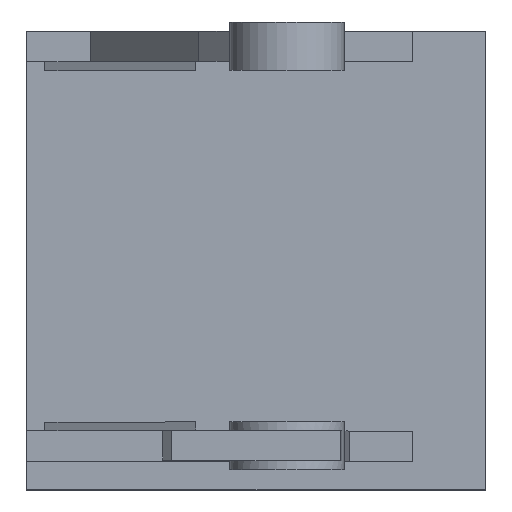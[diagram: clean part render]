
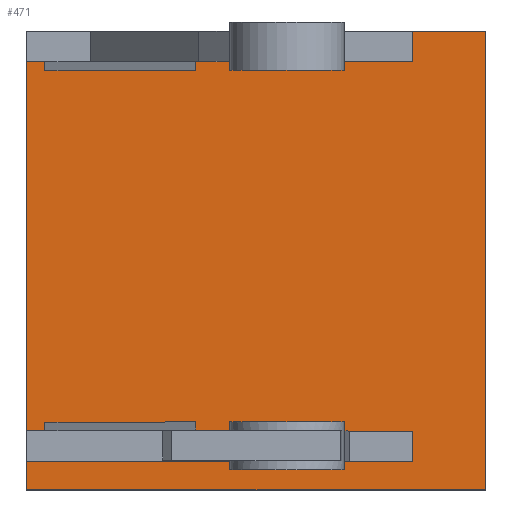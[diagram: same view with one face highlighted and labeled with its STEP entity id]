
A CAD part, top view. The second image highlights one B-rep face of the part: STEP entity #471.
In plain terms, the highlighted planar face has unit normal (0, 0, 1).
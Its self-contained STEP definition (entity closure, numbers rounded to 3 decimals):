
#446 = VERTEX_POINT('',#447);
#447 = CARTESIAN_POINT('',(-76.,-76.,83.));
#453 = EDGE_CURVE('',#446,#454,#456,.T.);
#454 = VERTEX_POINT('',#455);
#455 = CARTESIAN_POINT('',(76.,-76.,83.));
#456 = LINE('',#457,#458);
#457 = CARTESIAN_POINT('',(-76.,-76.,83.));
#458 = VECTOR('',#459,1.);
#459 = DIRECTION('',(1.,0.,-0.));
#471 = ADVANCED_FACE('',(#472),#609,.T.);
#472 = FACE_BOUND('',#473,.T.);
#473 = EDGE_LOOP('',(#474,#482,#483,#491,#499,#507,#515,#523,#531,#539,
    #547,#555,#563,#571,#579,#587,#595,#603));
#474 = ORIENTED_EDGE('',*,*,#475,.F.);
#475 = EDGE_CURVE('',#446,#476,#478,.T.);
#476 = VERTEX_POINT('',#477);
#477 = CARTESIAN_POINT('',(-76.,-66.5,83.));
#478 = LINE('',#479,#480);
#479 = CARTESIAN_POINT('',(-76.,-76.,83.));
#480 = VECTOR('',#481,1.);
#481 = DIRECTION('',(-0.,1.,0.));
#482 = ORIENTED_EDGE('',*,*,#453,.T.);
#483 = ORIENTED_EDGE('',*,*,#484,.T.);
#484 = EDGE_CURVE('',#454,#485,#487,.T.);
#485 = VERTEX_POINT('',#486);
#486 = CARTESIAN_POINT('',(76.,76.,83.));
#487 = LINE('',#488,#489);
#488 = CARTESIAN_POINT('',(76.,-76.,83.));
#489 = VECTOR('',#490,1.);
#490 = DIRECTION('',(-0.,1.,0.));
#491 = ORIENTED_EDGE('',*,*,#492,.F.);
#492 = EDGE_CURVE('',#493,#485,#495,.T.);
#493 = VERTEX_POINT('',#494);
#494 = CARTESIAN_POINT('',(52.,76.,83.));
#495 = LINE('',#496,#497);
#496 = CARTESIAN_POINT('',(-76.,76.,83.));
#497 = VECTOR('',#498,1.);
#498 = DIRECTION('',(1.,0.,-0.));
#499 = ORIENTED_EDGE('',*,*,#500,.F.);
#500 = EDGE_CURVE('',#501,#493,#503,.T.);
#501 = VERTEX_POINT('',#502);
#502 = CARTESIAN_POINT('',(52.,66.,83.));
#503 = LINE('',#504,#505);
#504 = CARTESIAN_POINT('',(52.,66.,83.));
#505 = VECTOR('',#506,1.);
#506 = DIRECTION('',(0.,1.,0.));
#507 = ORIENTED_EDGE('',*,*,#508,.F.);
#508 = EDGE_CURVE('',#509,#501,#511,.T.);
#509 = VERTEX_POINT('',#510);
#510 = CARTESIAN_POINT('',(-20.,66.,83.));
#511 = LINE('',#512,#513);
#512 = CARTESIAN_POINT('',(-76.,66.,83.));
#513 = VECTOR('',#514,1.);
#514 = DIRECTION('',(1.,0.,0.));
#515 = ORIENTED_EDGE('',*,*,#516,.F.);
#516 = EDGE_CURVE('',#517,#509,#519,.T.);
#517 = VERTEX_POINT('',#518);
#518 = CARTESIAN_POINT('',(-20.,63.,83.));
#519 = LINE('',#520,#521);
#520 = CARTESIAN_POINT('',(-20.,63.,83.));
#521 = VECTOR('',#522,1.);
#522 = DIRECTION('',(0.,1.,0.));
#523 = ORIENTED_EDGE('',*,*,#524,.F.);
#524 = EDGE_CURVE('',#525,#517,#527,.T.);
#525 = VERTEX_POINT('',#526);
#526 = CARTESIAN_POINT('',(-70.,63.,83.));
#527 = LINE('',#528,#529);
#528 = CARTESIAN_POINT('',(-70.,63.,83.));
#529 = VECTOR('',#530,1.);
#530 = DIRECTION('',(1.,0.,0.));
#531 = ORIENTED_EDGE('',*,*,#532,.T.);
#532 = EDGE_CURVE('',#525,#533,#535,.T.);
#533 = VERTEX_POINT('',#534);
#534 = CARTESIAN_POINT('',(-70.,66.,83.));
#535 = LINE('',#536,#537);
#536 = CARTESIAN_POINT('',(-70.,63.,83.));
#537 = VECTOR('',#538,1.);
#538 = DIRECTION('',(0.,1.,0.));
#539 = ORIENTED_EDGE('',*,*,#540,.F.);
#540 = EDGE_CURVE('',#541,#533,#543,.T.);
#541 = VERTEX_POINT('',#542);
#542 = CARTESIAN_POINT('',(-76.,66.,83.));
#543 = LINE('',#544,#545);
#544 = CARTESIAN_POINT('',(-76.,66.,83.));
#545 = VECTOR('',#546,1.);
#546 = DIRECTION('',(1.,0.,0.));
#547 = ORIENTED_EDGE('',*,*,#548,.F.);
#548 = EDGE_CURVE('',#549,#541,#551,.T.);
#549 = VERTEX_POINT('',#550);
#550 = CARTESIAN_POINT('',(-76.,-56.5,83.));
#551 = LINE('',#552,#553);
#552 = CARTESIAN_POINT('',(-76.,-76.,83.));
#553 = VECTOR('',#554,1.);
#554 = DIRECTION('',(-0.,1.,0.));
#555 = ORIENTED_EDGE('',*,*,#556,.T.);
#556 = EDGE_CURVE('',#549,#557,#559,.T.);
#557 = VERTEX_POINT('',#558);
#558 = CARTESIAN_POINT('',(-70.,-56.5,83.));
#559 = LINE('',#560,#561);
#560 = CARTESIAN_POINT('',(-76.,-56.5,83.));
#561 = VECTOR('',#562,1.);
#562 = DIRECTION('',(1.,0.,0.));
#563 = ORIENTED_EDGE('',*,*,#564,.T.);
#564 = EDGE_CURVE('',#557,#565,#567,.T.);
#565 = VERTEX_POINT('',#566);
#566 = CARTESIAN_POINT('',(-70.,-53.5,83.));
#567 = LINE('',#568,#569);
#568 = CARTESIAN_POINT('',(-70.,-61.5,83.));
#569 = VECTOR('',#570,1.);
#570 = DIRECTION('',(0.,1.,0.));
#571 = ORIENTED_EDGE('',*,*,#572,.T.);
#572 = EDGE_CURVE('',#565,#573,#575,.T.);
#573 = VERTEX_POINT('',#574);
#574 = CARTESIAN_POINT('',(-20.,-53.5,83.));
#575 = LINE('',#576,#577);
#576 = CARTESIAN_POINT('',(-70.,-53.5,83.));
#577 = VECTOR('',#578,1.);
#578 = DIRECTION('',(1.,0.,0.));
#579 = ORIENTED_EDGE('',*,*,#580,.F.);
#580 = EDGE_CURVE('',#581,#573,#583,.T.);
#581 = VERTEX_POINT('',#582);
#582 = CARTESIAN_POINT('',(-20.,-56.5,83.));
#583 = LINE('',#584,#585);
#584 = CARTESIAN_POINT('',(-20.,-61.5,83.));
#585 = VECTOR('',#586,1.);
#586 = DIRECTION('',(0.,1.,0.));
#587 = ORIENTED_EDGE('',*,*,#588,.T.);
#588 = EDGE_CURVE('',#581,#589,#591,.T.);
#589 = VERTEX_POINT('',#590);
#590 = CARTESIAN_POINT('',(52.,-56.5,83.));
#591 = LINE('',#592,#593);
#592 = CARTESIAN_POINT('',(-76.,-56.5,83.));
#593 = VECTOR('',#594,1.);
#594 = DIRECTION('',(1.,0.,0.));
#595 = ORIENTED_EDGE('',*,*,#596,.F.);
#596 = EDGE_CURVE('',#597,#589,#599,.T.);
#597 = VERTEX_POINT('',#598);
#598 = CARTESIAN_POINT('',(52.,-66.5,83.));
#599 = LINE('',#600,#601);
#600 = CARTESIAN_POINT('',(52.,-66.5,83.));
#601 = VECTOR('',#602,1.);
#602 = DIRECTION('',(0.,1.,0.));
#603 = ORIENTED_EDGE('',*,*,#604,.F.);
#604 = EDGE_CURVE('',#476,#597,#605,.T.);
#605 = LINE('',#606,#607);
#606 = CARTESIAN_POINT('',(-76.,-66.5,83.));
#607 = VECTOR('',#608,1.);
#608 = DIRECTION('',(1.,0.,0.));
#609 = PLANE('',#610);
#610 = AXIS2_PLACEMENT_3D('',#611,#612,#613);
#611 = CARTESIAN_POINT('',(-76.,-76.,83.));
#612 = DIRECTION('',(0.,0.,1.));
#613 = DIRECTION('',(1.,0.,-0.));
